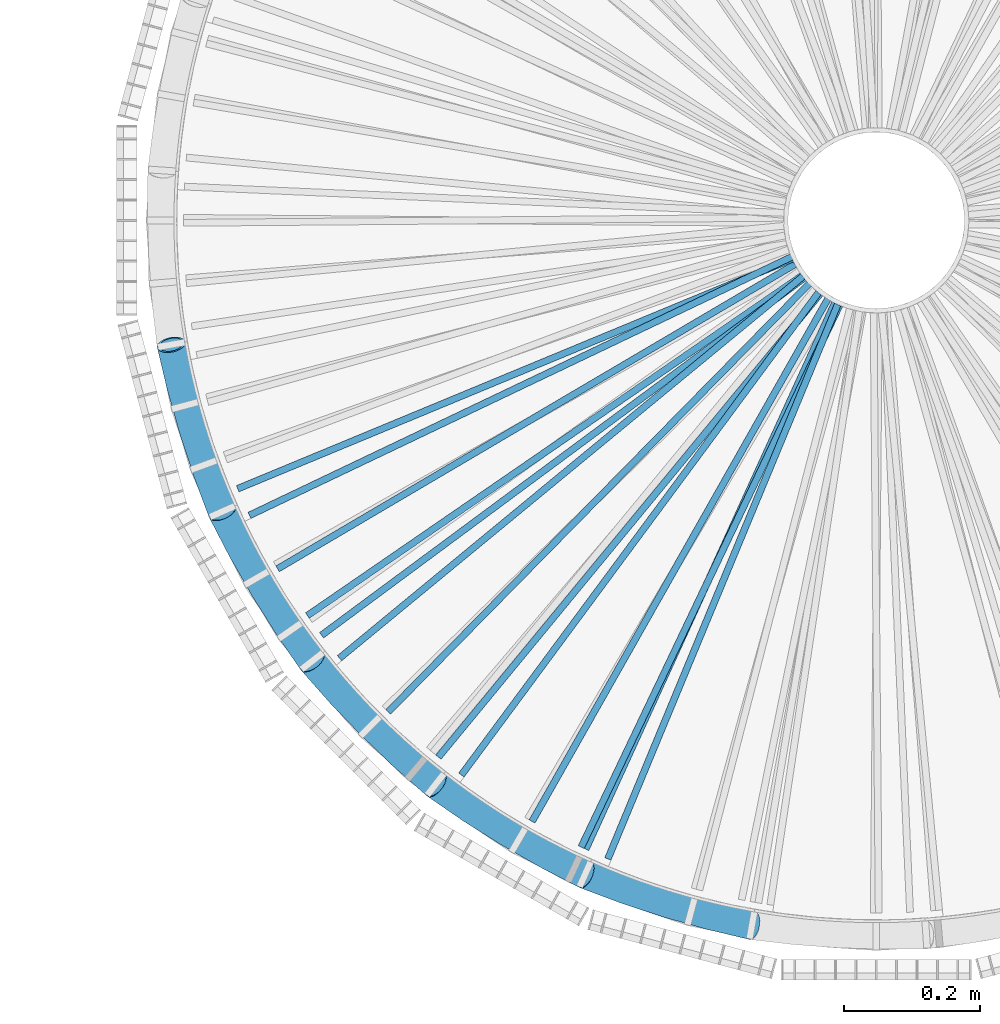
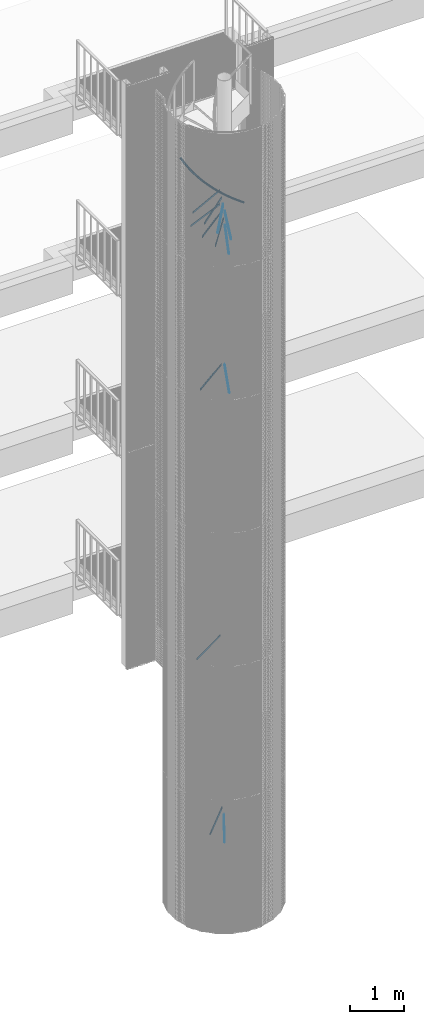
# One storey, part 388 of 1183: 13 beams, 5 members, 8 elements without a shape of their own.
"""IFC2X3 building model written with IfcOpenShell, lengths in millimetres."""

from ifc_helpers import new_model, entity, si_unit, frame, origin_with_axes, origin_2d_with_axis, place, context, subcontext, project, spatial, polyline, rectangle, outline, extrude, boolean, material, type_object, element, aggregate, save


model = new_model("IFC2X3")

# Units and contexts
model_context = context("Model", 3, precision=1e-05, world=origin_with_axes())
body_context = subcontext(model_context, "Body", "Model", "MODEL_VIEW")
ifc_project = project(units=[si_unit("LENGTHUNIT", "METRE", prefix="MILLI"), si_unit("AREAUNIT", "SQUARE_METRE"), si_unit("VOLUMEUNIT", "CUBIC_METRE"), si_unit("MASSUNIT", "GRAM", prefix="KILO"), si_unit("TIMEUNIT", "SECOND"), si_unit("PLANEANGLEUNIT", "RADIAN"), si_unit("SOLIDANGLEUNIT", "STERADIAN"), si_unit("THERMODYNAMICTEMPERATUREUNIT", "DEGREE_CELSIUS"), si_unit("LUMINOUSINTENSITYUNIT", "LUMEN")], contexts=[model_context])

# Site, building, storey
site_placement = place(None, origin_with_axes())
site = spatial("IfcSite", under=ifc_project, at=site_placement, Name="Undefined", CompositionType="ELEMENT")
building_placement = place(site_placement, origin_with_axes())
building = spatial("IfcBuilding", under=site, at=building_placement, Name="Undefined", CompositionType="ELEMENT")
storey_placement = place(building_placement, origin_with_axes())
storey = spatial("IfcBuildingStorey", under=building, at=storey_placement, Name="Undefined", CompositionType="ELEMENT", Elevation=0.0)

# Assembly, beams
assembly_1_placement = place(storey_placement, origin_with_axes())
assembly_1 = element("IfcElementAssembly", 1, at=assembly_1_placement, inside=storey, Name="POTEAU", AssemblyPlace="NOTDEFINED", PredefinedType="NOTDEFINED")
ifc_material = material(Name="STEEL/S235JR")
beam_type = type_object("IfcBeamType", Name="PL10*40", PredefinedType="NOTDEFINED")
beam_1_placement = place(assembly_1_placement, frame((21537.6063324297, -56.3278473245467, 2139.28), z_axis=(0.0, 0.0, 1.0), x_axis=(-0.701092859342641, -0.713069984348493, 0.0)))
beam_1 = element("IfcBeam", 2, at=beam_1_placement, type_object=beam_type, material=ifc_material, Name="RAIDISSEUR", context=body_context, shape_type="CSG", body=[
    boolean("DIFFERENCE", extrude(rectangle(XDim=10.0, YDim=40.0, at=origin_2d_with_axis()), frame((935.982964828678, -2.59787459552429e-14, -3.63797880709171e-12), z_axis=(-1.0, 0.0, 0.0), x_axis=(0.0, -1.0, 0.0)), (0.0, 0.0, 1.0), 935.98), extrude(outline(polyline([(0.0, 0.0), (30.5663019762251, -4.91127138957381e-11), (60.366242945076, 6.80164206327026), (87.9055294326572, 20.0638634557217), (111.803226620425, 39.1216410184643), (130.861004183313, 63.0193382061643), (144.123225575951, 90.5586246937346), (150.9248676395, 120.358565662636), (150.924867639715, 150.924867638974), (144.123225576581, 180.724808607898), (130.86100418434, 208.264095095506), (111.803226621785, 232.161792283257), (87.9055294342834, 251.219569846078), (60.3662429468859, 264.481791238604), (30.5663019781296, 271.283433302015), (1.90266291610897e-09, 271.28343330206), (-29.7999409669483, 264.481791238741), (-57.3392274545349, 251.219569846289), (-81.2369246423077, 232.161792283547), (-100.294702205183, 208.26409509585), (-113.556923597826, 180.724808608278), (-120.35856566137, 150.92486763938), (-120.358565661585, 120.358565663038), (-113.556923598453, 90.5586246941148), (-100.294702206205, 63.0193382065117), (-81.2369246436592, 39.1216410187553), (-57.3392274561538, 20.0638634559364), (-29.7999409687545, 6.80164206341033), (0.0, 0.0)])), frame((51.9654926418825, -8.04796593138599, -22.4999999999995), z_axis=(0.0, 0.0, 1.0), x_axis=(-0.0164633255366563, 0.999864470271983, 0.0)), (0.0, 0.0, 1.0), 45.0)),
])
beam_2_placement = place(assembly_1_placement, frame((21525.153625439, -38.2598530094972, 6002.28000000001), z_axis=(0.0, 0.0, 1.0), x_axis=(-0.861759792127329, -0.507316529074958, 0.0)))
beam_2 = element("IfcBeam", 3, at=beam_2_placement, type_object=beam_type, material=ifc_material, Name="RAIDISSEUR", context=body_context, shape_type="CSG", body=[
    boolean("DIFFERENCE", extrude(rectangle(XDim=10.0, YDim=40.0, at=origin_2d_with_axis()), frame((935.982964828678, -2.59787459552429e-14, -3.63797880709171e-12), z_axis=(-1.0, 0.0, 0.0), x_axis=(0.0, -1.0, 0.0)), (0.0, 0.0, 1.0), 935.98), extrude(outline(polyline([(0.0, 0.0), (30.5663019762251, -4.91127138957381e-11), (60.366242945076, 6.80164206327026), (87.9055294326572, 20.0638634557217), (111.803226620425, 39.1216410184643), (130.861004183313, 63.0193382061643), (144.123225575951, 90.5586246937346), (150.9248676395, 120.358565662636), (150.924867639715, 150.924867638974), (144.123225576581, 180.724808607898), (130.86100418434, 208.264095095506), (111.803226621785, 232.161792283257), (87.9055294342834, 251.219569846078), (60.3662429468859, 264.481791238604), (30.5663019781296, 271.283433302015), (1.90266291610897e-09, 271.28343330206), (-29.7999409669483, 264.481791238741), (-57.3392274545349, 251.219569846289), (-81.2369246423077, 232.161792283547), (-100.294702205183, 208.26409509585), (-113.556923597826, 180.724808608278), (-120.35856566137, 150.92486763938), (-120.358565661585, 120.358565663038), (-113.556923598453, 90.5586246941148), (-100.294702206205, 63.0193382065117), (-81.2369246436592, 39.1216410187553), (-57.3392274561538, 20.0638634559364), (-29.7999409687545, 6.80164206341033), (0.0, 0.0)])), frame((50.7127282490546, 27.5636561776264, -22.5), z_axis=(0.0, 0.0, 1.0), x_axis=(-0.274686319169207, 0.961533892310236, 0.0)), (0.0, 0.0, 1.0), 45.0)),
])
beam_3_placement = place(assembly_1_placement, frame((21554.3110647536, -70.5571919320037, 1984.76), z_axis=(0.0, 0.0, 1.0), x_axis=(-0.492647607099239, -0.870228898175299, 0.0)))
beam_3 = element("IfcBeam", 4, at=beam_3_placement, type_object=beam_type, material=ifc_material, Name="RAIDISSEUR", context=body_context, shape_type="CSG", body=[
    boolean("DIFFERENCE", extrude(rectangle(XDim=10.0, YDim=40.0, at=origin_2d_with_axis()), frame((935.982964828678, -2.59787459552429e-14, -3.63797880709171e-12), z_axis=(-1.0, 0.0, 0.0), x_axis=(0.0, -1.0, 0.0)), (0.0, 0.0, 1.0), 935.98), extrude(outline(polyline([(0.0, 0.0), (30.5663019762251, -4.91127138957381e-11), (60.366242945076, 6.80164206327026), (87.9055294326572, 20.0638634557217), (111.803226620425, 39.1216410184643), (130.861004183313, 63.0193382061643), (144.123225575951, 90.5586246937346), (150.9248676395, 120.358565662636), (150.924867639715, 150.924867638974), (144.123225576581, 180.724808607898), (130.86100418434, 208.264095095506), (111.803226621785, 232.161792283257), (87.9055294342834, 251.219569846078), (60.3662429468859, 264.481791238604), (30.5663019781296, 271.283433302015), (1.90266291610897e-09, 271.28343330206), (-29.7999409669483, 264.481791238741), (-57.3392274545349, 251.219569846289), (-81.2369246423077, 232.161792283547), (-100.294702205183, 208.26409509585), (-113.556923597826, 180.724808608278), (-120.35856566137, 150.92486763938), (-120.358565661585, 120.358565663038), (-113.556923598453, 90.5586246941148), (-100.294702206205, 63.0193382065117), (-81.2369246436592, 39.1216410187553), (-57.3392274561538, 20.0638634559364), (-29.7999409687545, 6.80164206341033), (0.0, 0.0)])), frame((43.9586040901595, -42.7703906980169, -22.5000000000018), z_axis=(0.0, 0.0, 1.0), x_axis=(0.24288161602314, 0.970055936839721, 0.0)), (0.0, 0.0, 1.0), 45.0)),
])
aggregate(assembly_1, [beam_1, beam_2, beam_3])

assembly_2_placement = place(storey_placement, origin_with_axes())
assembly_2 = element("IfcElementAssembly", 5, at=assembly_2_placement, inside=storey, Name="POTEAU", AssemblyPlace="NOTDEFINED", PredefinedType="NOTDEFINED")
beam_4_placement = place(assembly_2_placement, frame((21550.5026367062, -67.939731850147, 15387.72), z_axis=(0.0, 0.0, 1.0), x_axis=(-0.635879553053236, -0.771788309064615, 0.0)))
beam_4 = element("IfcBeam", 6, at=beam_4_placement, type_object=beam_type, material=ifc_material, Name="RAIDISSEUR", context=body_context, shape_type="CSG", body=[
    boolean("DIFFERENCE", extrude(rectangle(XDim=10.0, YDim=40.0, at=origin_2d_with_axis()), frame((935.982964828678, -2.59787459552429e-14, -3.63797880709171e-12), z_axis=(-1.0, 0.0, 0.0), x_axis=(0.0, -1.0, 0.0)), (0.0, 0.0, 1.0), 935.98), extrude(outline(polyline([(0.0, 0.0), (30.5663019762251, -4.91127138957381e-11), (60.366242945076, 6.80164206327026), (87.9055294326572, 20.0638634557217), (111.803226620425, 39.1216410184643), (130.861004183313, 63.0193382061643), (144.123225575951, 90.5586246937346), (150.9248676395, 120.358565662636), (150.924867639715, 150.924867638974), (144.123225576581, 180.724808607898), (130.86100418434, 208.264095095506), (111.803226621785, 232.161792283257), (87.9055294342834, 251.219569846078), (60.3662429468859, 264.481791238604), (30.5663019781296, 271.283433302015), (1.90266291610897e-09, 271.28343330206), (-29.7999409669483, 264.481791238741), (-57.3392274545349, 251.219569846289), (-81.2369246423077, 232.161792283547), (-100.294702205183, 208.26409509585), (-113.556923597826, 180.724808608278), (-120.35856566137, 150.92486763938), (-120.358565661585, 120.358565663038), (-113.556923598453, 90.5586246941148), (-100.294702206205, 63.0193382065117), (-81.2369246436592, 39.1216410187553), (-57.3392274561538, 20.0638634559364), (-29.7999409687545, 6.80164206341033), (0.0, 0.0)])), frame((50.298434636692, -29.9097001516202, -22.5), z_axis=(0.0, 0.0, 1.0), x_axis=(0.0712568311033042, 0.997458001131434, 0.0)), (0.0, 0.0, 1.0), 45.0)),
])
beam_5_placement = place(assembly_2_placement, frame((21563.2503817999, -75.5993498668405, 15544.24), z_axis=(0.0, 0.0, 1.0), x_axis=(-0.382921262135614, -0.923780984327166, 0.0)))
beam_5 = element("IfcBeam", 7, at=beam_5_placement, type_object=beam_type, material=ifc_material, Name="RAIDISSEUR", context=body_context, shape_type="CSG", body=[
    boolean("DIFFERENCE", extrude(rectangle(XDim=10.0, YDim=40.0, at=origin_2d_with_axis()), frame((935.982964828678, -2.59787459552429e-14, -3.63797880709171e-12), z_axis=(-1.0, 0.0, 0.0), x_axis=(0.0, -1.0, 0.0)), (0.0, 0.0, 1.0), 935.98), extrude(outline(polyline([(0.0, 0.0), (30.5663019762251, -4.91127138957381e-11), (60.366242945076, 6.80164206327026), (87.9055294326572, 20.0638634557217), (111.803226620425, 39.1216410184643), (130.861004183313, 63.0193382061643), (144.123225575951, 90.5586246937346), (150.9248676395, 120.358565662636), (150.924867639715, 150.924867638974), (144.123225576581, 180.724808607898), (130.86100418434, 208.264095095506), (111.803226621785, 232.161792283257), (87.9055294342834, 251.219569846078), (60.3662429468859, 264.481791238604), (30.5663019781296, 271.283433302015), (1.90266291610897e-09, 271.28343330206), (-29.7999409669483, 264.481791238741), (-57.3392274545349, 251.219569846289), (-81.2369246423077, 232.161792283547), (-100.294702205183, 208.26409509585), (-113.556923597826, 180.724808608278), (-120.35856566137, 150.92486763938), (-120.358565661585, 120.358565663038), (-113.556923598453, 90.5586246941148), (-100.294702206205, 63.0193382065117), (-81.2369246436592, 39.1216410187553), (-57.3392274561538, 20.0638634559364), (-29.7999409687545, 6.80164206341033), (0.0, 0.0)])), frame((37.1837488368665, -57.9975134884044, -22.5), z_axis=(0.0, 0.0, 1.0), x_axis=(0.359291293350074, 0.933225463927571, 0.0)), (0.0, 0.0, 1.0), 45.0)),
])
beam_6_placement = place(assembly_2_placement, frame((21532.0602681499, -49.4973632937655, 15857.28), z_axis=(0.0, 0.0, 1.0), x_axis=(-0.771788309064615, -0.635879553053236, 0.0)))
beam_6 = element("IfcBeam", 8, at=beam_6_placement, type_object=beam_type, material=ifc_material, Name="RAIDISSEUR", context=body_context, shape_type="CSG", body=[
    boolean("DIFFERENCE", extrude(rectangle(XDim=10.0, YDim=40.0, at=origin_2d_with_axis()), frame((935.982964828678, -2.59787459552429e-14, -3.63797880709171e-12), z_axis=(-1.0, 0.0, 0.0), x_axis=(0.0, -1.0, 0.0)), (0.0, 0.0, 1.0), 935.98), extrude(outline(polyline([(0.0, 0.0), (30.5663019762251, -4.91127138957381e-11), (60.366242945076, 6.80164206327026), (87.9055294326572, 20.0638634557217), (111.803226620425, 39.1216410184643), (130.861004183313, 63.0193382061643), (144.123225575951, 90.5586246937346), (150.9248676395, 120.358565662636), (150.924867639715, 150.924867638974), (144.123225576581, 180.724808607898), (130.86100418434, 208.264095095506), (111.803226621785, 232.161792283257), (87.9055294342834, 251.219569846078), (60.3662429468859, 264.481791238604), (30.5663019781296, 271.283433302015), (1.90266291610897e-09, 271.28343330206), (-29.7999409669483, 264.481791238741), (-57.3392274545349, 251.219569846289), (-81.2369246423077, 232.161792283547), (-100.294702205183, 208.26409509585), (-113.556923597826, 180.724808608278), (-120.35856566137, 150.92486763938), (-120.358565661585, 120.358565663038), (-113.556923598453, 90.5586246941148), (-100.294702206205, 63.0193382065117), (-81.2369246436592, 39.1216410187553), (-57.3392274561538, 20.0638634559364), (-29.7999409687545, 6.80164206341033), (0.0, 0.0)])), frame((52.585039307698, 6.22631136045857, -22.4999999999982), z_axis=(0.0, 0.0, 1.0), x_axis=(-0.120887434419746, 0.992666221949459, 0.0)), (0.0, 0.0, 1.0), 45.0)),
])
beam_7_placement = place(assembly_2_placement, frame((21522.1038725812, -31.5909713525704, 16013.8), z_axis=(0.0, 0.0, 1.0), x_axis=(-0.902696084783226, -0.430278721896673, 0.0)))
beam_7 = element("IfcBeam", 9, at=beam_7_placement, type_object=beam_type, material=ifc_material, Name="RAIDISSEUR", context=body_context, shape_type="CSG", body=[
    boolean("DIFFERENCE", extrude(rectangle(XDim=10.0, YDim=40.0, at=origin_2d_with_axis()), frame((935.982964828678, -2.59787459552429e-14, -3.63797880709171e-12), z_axis=(-1.0, 0.0, 0.0), x_axis=(0.0, -1.0, 0.0)), (0.0, 0.0, 1.0), 935.98), extrude(outline(polyline([(0.0, 0.0), (30.5663019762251, -4.91127138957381e-11), (60.366242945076, 6.80164206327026), (87.9055294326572, 20.0638634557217), (111.803226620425, 39.1216410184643), (130.861004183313, 63.0193382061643), (144.123225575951, 90.5586246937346), (150.9248676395, 120.358565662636), (150.924867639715, 150.924867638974), (144.123225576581, 180.724808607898), (130.86100418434, 208.264095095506), (111.803226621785, 232.161792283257), (87.9055294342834, 251.219569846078), (60.3662429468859, 264.481791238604), (30.5663019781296, 271.283433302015), (1.90266291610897e-09, 271.28343330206), (-29.7999409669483, 264.481791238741), (-57.3392274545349, 251.219569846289), (-81.2369246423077, 232.161792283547), (-100.294702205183, 208.26409509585), (-113.556923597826, 180.724808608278), (-120.35856566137, 150.92486763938), (-120.358565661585, 120.358565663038), (-113.556923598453, 90.5586246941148), (-100.294702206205, 63.0193382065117), (-81.2369246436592, 39.1216410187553), (-57.3392274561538, 20.0638634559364), (-29.7999409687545, 6.80164206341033), (0.0, 0.0)])), frame((48.2338979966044, 39.2108907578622, -22.5), z_axis=(0.0, 0.0, 1.0), x_axis=(-0.357444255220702, 0.933934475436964, 0.0)), (0.0, 0.0, 1.0), 45.0)),
])
beam_8_placement = place(assembly_2_placement, frame((21546.0528644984, -64.4631887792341, 15700.76), z_axis=(0.0, 0.0, 1.0), x_axis=(-0.595029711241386, -0.803703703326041, 0.0)))
beam_8 = element("IfcBeam", 10, at=beam_8_placement, type_object=beam_type, material=ifc_material, Name="RAIDISSEUR", context=body_context, shape_type="CSG", body=[
    boolean("DIFFERENCE", extrude(rectangle(XDim=10.0, YDim=40.0, at=origin_2d_with_axis()), frame((935.982964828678, -2.59787459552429e-14, -3.63797880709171e-12), z_axis=(-1.0, 0.0, 0.0), x_axis=(0.0, -1.0, 0.0)), (0.0, 0.0, 1.0), 935.98), extrude(outline(polyline([(0.0, 0.0), (30.5663019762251, -4.91127138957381e-11), (60.366242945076, 6.80164206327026), (87.9055294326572, 20.0638634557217), (111.803226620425, 39.1216410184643), (130.861004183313, 63.0193382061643), (144.123225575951, 90.5586246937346), (150.9248676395, 120.358565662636), (150.924867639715, 150.924867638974), (144.123225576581, 180.724808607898), (130.86100418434, 208.264095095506), (111.803226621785, 232.161792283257), (87.9055294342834, 251.219569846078), (60.3662429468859, 264.481791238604), (30.5663019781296, 271.283433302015), (1.90266291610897e-09, 271.28343330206), (-29.7999409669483, 264.481791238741), (-57.3392274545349, 251.219569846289), (-81.2369246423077, 232.161792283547), (-100.294702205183, 208.26409509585), (-113.556923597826, 180.724808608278), (-120.35856566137, 150.92486763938), (-120.358565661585, 120.358565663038), (-113.556923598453, 90.5586246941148), (-100.294702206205, 63.0193382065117), (-81.2369246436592, 39.1216410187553), (-57.3392274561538, 20.0638634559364), (-29.7999409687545, 6.80164206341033), (0.0, 0.0)])), frame((48.827241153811, -26.8311213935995, -22.5), z_axis=(0.0, 0.0, 1.0), x_axis=(0.122851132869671, 0.992425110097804, 0.0)), (0.0, 0.0, 1.0), 45.0)),
])
beam_9_placement = place(assembly_2_placement, frame((21568.4090286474, -77.896127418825, 15231.2), z_axis=(0.0, 0.0, 1.0), x_axis=(-0.430278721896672, -0.902696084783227, 0.0)))
beam_9 = element("IfcBeam", 11, at=beam_9_placement, type_object=beam_type, material=ifc_material, Name="RAIDISSEUR", context=body_context, shape_type="CSG", body=[
    boolean("DIFFERENCE", extrude(rectangle(XDim=10.0, YDim=40.0, at=origin_2d_with_axis()), frame((935.982964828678, -2.59787459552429e-14, -3.63797880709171e-12), z_axis=(-1.0, 0.0, 0.0), x_axis=(0.0, -1.0, 0.0)), (0.0, 0.0, 1.0), 935.98), extrude(outline(polyline([(0.0, 0.0), (30.5663019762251, -4.91127138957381e-11), (60.366242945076, 6.80164206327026), (87.9055294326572, 20.0638634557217), (111.803226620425, 39.1216410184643), (130.861004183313, 63.0193382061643), (144.123225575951, 90.5586246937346), (150.9248676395, 120.358565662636), (150.924867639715, 150.924867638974), (144.123225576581, 180.724808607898), (130.86100418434, 208.264095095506), (111.803226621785, 232.161792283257), (87.9055294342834, 251.219569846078), (60.3662429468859, 264.481791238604), (30.5663019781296, 271.283433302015), (1.90266291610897e-09, 271.28343330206), (-29.7999409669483, 264.481791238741), (-57.3392274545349, 251.219569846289), (-81.2369246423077, 232.161792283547), (-100.294702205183, 208.26409509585), (-113.556923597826, 180.724808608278), (-120.35856566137, 150.92486763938), (-120.358565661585, 120.358565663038), (-113.556923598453, 90.5586246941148), (-100.294702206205, 63.0193382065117), (-81.2369246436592, 39.1216410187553), (-57.3392274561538, 20.0638634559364), (-29.7999409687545, 6.80164206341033), (0.0, 0.0)])), frame((40.2856849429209, -61.6376019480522, -22.5), z_axis=(0.0, 0.0, 1.0), x_axis=(0.310447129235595, 0.950590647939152, 0.0)), (0.0, 0.0, 1.0), 45.0)),
])
beam_10_placement = place(assembly_2_placement, frame((21535.5368112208, -53.9471355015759, 15544.24), z_axis=(0.0, 0.0, 1.0), x_axis=(-0.80370370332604, -0.595029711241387, 0.0)))
beam_10 = element("IfcBeam", 12, at=beam_10_placement, type_object=beam_type, material=ifc_material, Name="RAIDISSEUR", context=body_context, shape_type="CSG", body=[
    boolean("DIFFERENCE", extrude(rectangle(XDim=10.0, YDim=40.0, at=origin_2d_with_axis()), frame((935.982964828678, -2.59787459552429e-14, -3.63797880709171e-12), z_axis=(-1.0, 0.0, 0.0), x_axis=(0.0, -1.0, 0.0)), (0.0, 0.0, 1.0), 935.98), extrude(outline(polyline([(0.0, 0.0), (30.5663019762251, -4.91127138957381e-11), (60.366242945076, 6.80164206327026), (87.9055294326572, 20.0638634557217), (111.803226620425, 39.1216410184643), (130.861004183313, 63.0193382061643), (144.123225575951, 90.5586246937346), (150.9248676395, 120.358565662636), (150.924867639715, 150.924867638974), (144.123225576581, 180.724808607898), (130.86100418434, 208.264095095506), (111.803226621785, 232.161792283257), (87.9055294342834, 251.219569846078), (60.3662429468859, 264.481791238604), (30.5663019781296, 271.283433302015), (1.90266291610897e-09, 271.28343330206), (-29.7999409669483, 264.481791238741), (-57.3392274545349, 251.219569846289), (-81.2369246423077, 232.161792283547), (-100.294702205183, 208.26409509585), (-113.556923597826, 180.724808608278), (-120.35856566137, 150.92486763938), (-120.358565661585, 120.358565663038), (-113.556923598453, 90.5586246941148), (-100.294702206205, 63.0193382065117), (-81.2369246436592, 39.1216410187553), (-57.3392274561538, 20.0638634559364), (-29.7999409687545, 6.80164206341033), (0.0, 0.0)])), frame((52.3380887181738, 3.29805072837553, -22.4999999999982), z_axis=(0.0, 0.0, 1.0), x_axis=(-0.172166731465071, 0.98506782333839, 0.0)), (0.0, 0.0, 1.0), 45.0)),
])
beam_11_placement = place(assembly_2_placement, frame((21524.4006501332, -36.7496182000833, 15700.76), z_axis=(0.0, 0.0, 1.0), x_axis=(-0.923780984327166, -0.382921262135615, 0.0)))
beam_11 = element("IfcBeam", 13, at=beam_11_placement, type_object=beam_type, material=ifc_material, Name="RAIDISSEUR", context=body_context, shape_type="CSG", body=[
    boolean("DIFFERENCE", extrude(rectangle(XDim=10.0, YDim=40.0, at=origin_2d_with_axis()), frame((935.982964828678, -2.59787459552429e-14, -3.63797880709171e-12), z_axis=(-1.0, 0.0, 0.0), x_axis=(0.0, -1.0, 0.0)), (0.0, 0.0, 1.0), 935.98), extrude(outline(polyline([(0.0, 0.0), (30.5663019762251, -4.91127138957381e-11), (60.366242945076, 6.80164206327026), (87.9055294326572, 20.0638634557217), (111.803226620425, 39.1216410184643), (130.861004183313, 63.0193382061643), (144.123225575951, 90.5586246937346), (150.9248676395, 120.358565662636), (150.924867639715, 150.924867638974), (144.123225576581, 180.724808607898), (130.86100418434, 208.264095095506), (111.803226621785, 232.161792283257), (87.9055294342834, 251.219569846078), (60.3662429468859, 264.481791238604), (30.5663019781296, 271.283433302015), (1.90266291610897e-09, 271.28343330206), (-29.7999409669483, 264.481791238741), (-57.3392274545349, 251.219569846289), (-81.2369246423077, 232.161792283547), (-100.294702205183, 208.26409509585), (-113.556923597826, 180.724808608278), (-120.35856566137, 150.92486763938), (-120.358565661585, 120.358565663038), (-113.556923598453, 90.5586246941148), (-100.294702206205, 63.0193382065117), (-81.2369246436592, 39.1216410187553), (-57.3392274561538, 20.0638634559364), (-29.7999409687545, 6.80164206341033), (0.0, 0.0)])), frame((46.2834742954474, 36.0128264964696, -22.5), z_axis=(0.0, 0.0, 1.0), x_axis=(-0.405362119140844, 0.914156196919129, 0.0)), (0.0, 0.0, 1.0), 45.0)),
])
aggregate(assembly_2, [beam_4, beam_5, beam_6, beam_7, beam_8, beam_9, beam_10, beam_11])

assembly_3_placement = place(storey_placement, origin_with_axes())
assembly_3 = element("IfcElementAssembly", 14, at=assembly_3_placement, inside=storey, Name="POTEAU", AssemblyPlace="NOTDEFINED", PredefinedType="NOTDEFINED")
beam_12_placement = place(assembly_3_placement, frame((21533.6933525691, -51.6645395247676, 12100.76), z_axis=(0.0, 0.0, 1.0), x_axis=(-0.823980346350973, -0.56661838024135, 0.0)))
beam_12 = element("IfcBeam", 15, at=beam_12_placement, type_object=beam_type, material=ifc_material, Name="RAIDISSEUR", context=body_context, shape_type="CSG", body=[
    boolean("DIFFERENCE", extrude(rectangle(XDim=10.0, YDim=40.0, at=origin_2d_with_axis()), frame((935.982964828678, -2.59787459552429e-14, -3.63797880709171e-12), z_axis=(-1.0, 0.0, 0.0), x_axis=(0.0, -1.0, 0.0)), (0.0, 0.0, 1.0), 935.98), extrude(outline(polyline([(0.0, 0.0), (30.5663019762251, -4.91127138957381e-11), (60.366242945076, 6.80164206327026), (87.9055294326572, 20.0638634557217), (111.803226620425, 39.1216410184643), (130.861004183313, 63.0193382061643), (144.123225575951, 90.5586246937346), (150.9248676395, 120.358565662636), (150.924867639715, 150.924867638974), (144.123225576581, 180.724808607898), (130.86100418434, 208.264095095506), (111.803226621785, 232.161792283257), (87.9055294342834, 251.219569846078), (60.3662429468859, 264.481791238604), (30.5663019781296, 271.283433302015), (1.90266291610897e-09, 271.28343330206), (-29.7999409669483, 264.481791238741), (-57.3392274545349, 251.219569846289), (-81.2369246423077, 232.161792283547), (-100.294702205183, 208.26409509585), (-113.556923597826, 180.724808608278), (-120.35856566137, 150.92486763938), (-120.358565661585, 120.358565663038), (-113.556923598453, 90.5586246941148), (-100.294702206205, 63.0193382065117), (-81.2369246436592, 39.1216410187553), (-57.3392274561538, 20.0638634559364), (-29.7999409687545, 6.80164206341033), (0.0, 0.0)])), frame((51.9654925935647, 8.047966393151, -22.5000000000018), z_axis=(0.0, 0.0, 1.0), x_axis=(-0.206440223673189, 0.978459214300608, 0.0)), (0.0, 0.0, 1.0), 45.0)),
])
beam_13_placement = place(assembly_3_placement, frame((21560.6343894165, -74.2707535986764, 12100.76), z_axis=(0.0, 0.0, 1.0), x_axis=(-0.414927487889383, -0.909854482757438, 0.0)))
beam_13 = element("IfcBeam", 16, at=beam_13_placement, type_object=beam_type, material=ifc_material, Name="RAIDISSEUR", context=body_context, shape_type="CSG", body=[
    boolean("DIFFERENCE", extrude(rectangle(XDim=10.0, YDim=40.0, at=origin_2d_with_axis()), frame((935.982964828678, -2.59787459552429e-14, -3.63797880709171e-12), z_axis=(-1.0, 0.0, 0.0), x_axis=(0.0, -1.0, 0.0)), (0.0, 0.0, 1.0), 935.98), extrude(outline(polyline([(0.0, 0.0), (30.5663019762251, -4.91127138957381e-11), (60.366242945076, 6.80164206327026), (87.9055294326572, 20.0638634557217), (111.803226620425, 39.1216410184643), (130.861004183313, 63.0193382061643), (144.123225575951, 90.5586246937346), (150.9248676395, 120.358565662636), (150.924867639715, 150.924867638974), (144.123225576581, 180.724808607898), (130.86100418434, 208.264095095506), (111.803226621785, 232.161792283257), (87.9055294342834, 251.219569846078), (60.3662429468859, 264.481791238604), (30.5663019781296, 271.283433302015), (1.90266291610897e-09, 271.28343330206), (-29.7999409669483, 264.481791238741), (-57.3392274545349, 251.219569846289), (-81.2369246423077, 232.161792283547), (-100.294702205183, 208.26409509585), (-113.556923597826, 180.724808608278), (-120.35856566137, 150.92486763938), (-120.358565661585, 120.358565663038), (-113.556923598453, 90.5586246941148), (-100.294702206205, 63.0193382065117), (-81.2369246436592, 39.1216410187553), (-57.3392274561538, 20.0638634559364), (-29.7999409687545, 6.80164206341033), (0.0, 0.0)])), frame((39.3085636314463, -53.7330453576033, -22.5000000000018), z_axis=(0.0, 0.0, 1.0), x_axis=(0.326503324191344, 0.945196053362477, 0.0)), (0.0, 0.0, 1.0), 45.0)),
])
aggregate(assembly_3, [beam_12, beam_13])

# Assembly, member
assembly_4_placement = place(storey_placement, origin_with_axes())
assembly_4 = element("IfcElementAssembly", 17, at=assembly_4_placement, inside=storey, Name="MONTANT", AssemblyPlace="NOTDEFINED", PredefinedType="NOTDEFINED")
member_type = type_object("IfcMemberType", Name="TUBE-42.4*3.2", PredefinedType="NOTDEFINED")
member_1_placement = place(assembly_4_placement, frame((20637.1230876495, -428.700421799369, 16981.2800000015), z_axis=(-0.956304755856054, -0.292371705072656, -6.79756340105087e-11), x_axis=(-0.249680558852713, 0.81666830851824, 0.520300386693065)))
member_1 = element("IfcMember", 18, at=member_1_placement, type_object=member_type, material=ifc_material, Name="MAIN_COURANTE", context=body_context, shape_type="SweptSolid", body=[
    entity("IfcRevolvedAreaSolid", entity("IfcCircleHollowProfileDef", "AREA", None, entity("IfcAxis2Placement2D", entity("IfcCartesianPoint", [0.0, 0.0]), entity("IfcDirection", [1.0, 0.0])), 21.200000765, 3.200000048), entity("IfcAxis2Placement3D", entity("IfcCartesianPoint", [300.826222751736, 9.26193911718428e-13, -2.55538133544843e-15]), entity("IfcDirection", [-0.997451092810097, -5.56582410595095e-17, 0.0713534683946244]), entity("IfcDirection", [0.0, -1.0, 0.0])), entity("IfcAxis1Placement", entity("IfcCartesianPoint", [0.0, -2108.0, 0.0]), entity("IfcDirection", [1.0, 0.0, 0.0])), 0.142828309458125),
])
aggregate(assembly_4, [member_1])

assembly_5_placement = place(storey_placement, origin_with_axes())
assembly_5 = element("IfcElementAssembly", 19, at=assembly_5_placement, inside=storey, Name="MONTANT", AssemblyPlace="NOTDEFINED", PredefinedType="NOTDEFINED")
member_2_placement = place(assembly_5_placement, frame((20769.4366656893, -648.90719499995, 16824.7600000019), z_axis=(-0.857167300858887, -0.515038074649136, 1.38954419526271e-10), x_axis=(-0.439833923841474, 0.732006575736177, 0.520300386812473)))
member_2 = element("IfcMember", 20, at=member_2_placement, type_object=member_type, material=ifc_material, Name="MAIN_COURANTE", context=body_context, shape_type="SweptSolid", body=[
    entity("IfcRevolvedAreaSolid", entity("IfcCircleHollowProfileDef", "AREA", None, entity("IfcAxis2Placement2D", entity("IfcCartesianPoint", [0.0, 0.0]), entity("IfcDirection", [1.0, 0.0])), 21.200000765, 3.200000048), entity("IfcAxis2Placement3D", entity("IfcCartesianPoint", [300.826222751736, 9.26193911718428e-13, -2.55538133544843e-15]), entity("IfcDirection", [-0.997451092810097, -5.56582410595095e-17, 0.0713534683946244]), entity("IfcDirection", [0.0, -1.0, 0.0])), entity("IfcAxis1Placement", entity("IfcCartesianPoint", [0.0, -2108.0, 0.0]), entity("IfcDirection", [1.0, 0.0, 0.0])), 0.142828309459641),
])
aggregate(assembly_5, [member_2])

assembly_6_placement = place(storey_placement, origin_with_axes())
assembly_6 = element("IfcElementAssembly", 21, at=assembly_6_placement, inside=storey, Name="MONTANT", AssemblyPlace="NOTDEFINED", PredefinedType="NOTDEFINED")
member_3_placement = place(assembly_6_placement, frame((20951.0928050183, -830.563334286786, 16668.2400000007), z_axis=(-0.70710678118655, -0.707106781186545, 0.0), x_axis=(-0.603857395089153, 0.603857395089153, 0.520300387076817)))
member_3 = element("IfcMember", 22, at=member_3_placement, type_object=member_type, material=ifc_material, Name="MAIN_COURANTE", context=body_context, shape_type="SweptSolid", body=[
    entity("IfcRevolvedAreaSolid", entity("IfcCircleHollowProfileDef", "AREA", None, entity("IfcAxis2Placement2D", entity("IfcCartesianPoint", [0.0, 0.0]), entity("IfcDirection", [1.0, 0.0])), 21.200000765, 3.200000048), entity("IfcAxis2Placement3D", entity("IfcCartesianPoint", [300.826222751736, 9.26193911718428e-13, -2.55538133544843e-15]), entity("IfcDirection", [-0.997451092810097, -5.56582410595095e-17, 0.0713534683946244]), entity("IfcDirection", [0.0, -1.0, 0.0])), entity("IfcAxis1Placement", entity("IfcCartesianPoint", [0.0, -2108.0, 0.0]), entity("IfcDirection", [1.0, 0.0, 0.0])), 0.142828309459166),
])
aggregate(assembly_6, [member_3])

assembly_7_placement = place(storey_placement, origin_with_axes())
assembly_7 = element("IfcElementAssembly", 23, at=assembly_7_placement, inside=storey, Name="MONTANT", AssemblyPlace="NOTDEFINED", PredefinedType="NOTDEFINED")
member_4_placement = place(assembly_7_placement, frame((21171.2995782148, -962.87691231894, 16511.7200000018), z_axis=(-0.515038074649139, -0.857167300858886, -1.38954419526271e-10), x_axis=(-0.732006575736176, 0.439833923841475, 0.520300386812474)))
member_4 = element("IfcMember", 24, at=member_4_placement, type_object=member_type, material=ifc_material, Name="MAIN_COURANTE", context=body_context, shape_type="SweptSolid", body=[
    entity("IfcRevolvedAreaSolid", entity("IfcCircleHollowProfileDef", "AREA", None, entity("IfcAxis2Placement2D", entity("IfcCartesianPoint", [0.0, 0.0]), entity("IfcDirection", [1.0, 0.0])), 21.200000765, 3.200000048), entity("IfcAxis2Placement3D", entity("IfcCartesianPoint", [300.826222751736, 9.26193911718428e-13, -2.55538133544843e-15]), entity("IfcDirection", [-0.997451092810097, -5.56582410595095e-17, 0.0713534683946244]), entity("IfcDirection", [0.0, -1.0, 0.0])), entity("IfcAxis1Placement", entity("IfcCartesianPoint", [0.0, -2108.0, 0.0]), entity("IfcDirection", [1.0, 0.0, 0.0])), 0.14282830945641),
])
aggregate(assembly_7, [member_4])

assembly_8_placement = place(storey_placement, origin_with_axes())
assembly_8 = element("IfcElementAssembly", 25, at=assembly_8_placement, inside=storey, Name="MONTANT", AssemblyPlace="NOTDEFINED", PredefinedType="NOTDEFINED")
member_5_placement = place(assembly_8_placement, frame((21416.9748207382, -1037.98737167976, 16355.2000000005), z_axis=(-0.292371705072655, -0.956304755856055, 6.79719960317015e-11), x_axis=(-0.816668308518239, 0.249680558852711, 0.520300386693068)))
member_5 = element("IfcMember", 26, at=member_5_placement, type_object=member_type, material=ifc_material, Name="MAIN_COURANTE", context=body_context, shape_type="SweptSolid", body=[
    entity("IfcRevolvedAreaSolid", entity("IfcCircleHollowProfileDef", "AREA", None, entity("IfcAxis2Placement2D", entity("IfcCartesianPoint", [0.0, 0.0]), entity("IfcDirection", [1.0, 0.0])), 21.200000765, 3.200000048), entity("IfcAxis2Placement3D", entity("IfcCartesianPoint", [300.826222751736, 9.26193911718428e-13, -2.55538133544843e-15]), entity("IfcDirection", [-0.997451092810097, -5.56582410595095e-17, 0.0713534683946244]), entity("IfcDirection", [0.0, -1.0, 0.0])), entity("IfcAxis1Placement", entity("IfcCartesianPoint", [0.0, -2108.0, 0.0]), entity("IfcDirection", [1.0, 0.0, 0.0])), 0.142828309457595),
])
aggregate(assembly_8, [member_5])

save(model, "model.ifc")
